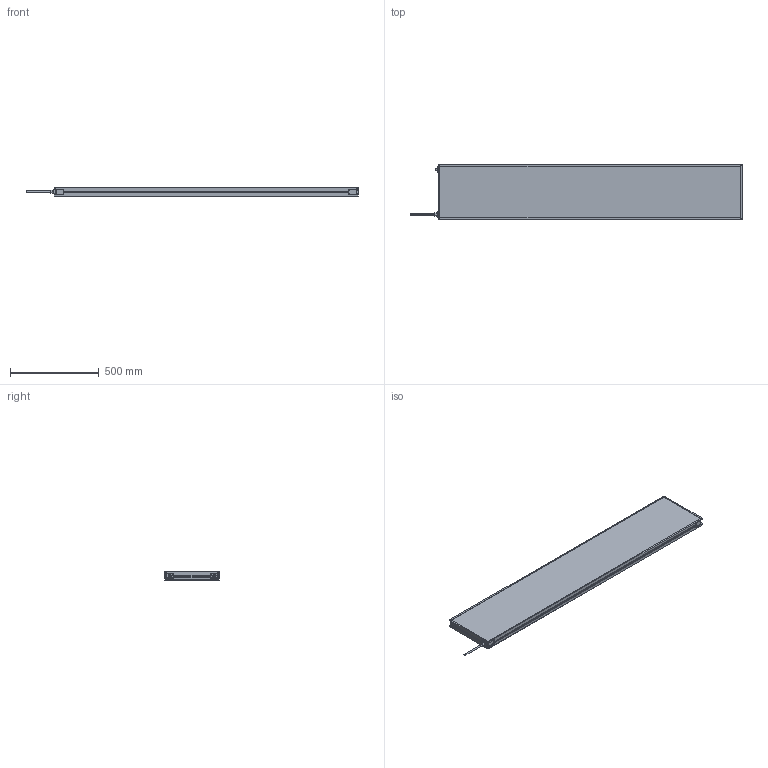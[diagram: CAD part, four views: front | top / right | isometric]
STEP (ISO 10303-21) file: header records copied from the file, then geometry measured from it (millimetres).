
FILE_DESCRIPTION (( 'STEP AP214' ), '1' );
FILE_NAME ('MBACK-xxxx-xxx-M1A2_CLIENT300x1700.STEP', '2022-04-01T11:33:05', ( '' ), ( '' ), 'SwSTEP 2.0', 'SolidWorks 2020', '' );
FILE_SCHEMA (( 'AUTOMOTIVE_DESIGN' ));
Length unit declared in the file: millimetre
Products named in the file (1): MBACK-xxxx-xxx-M1A2_CLIENT300x1700
Bounding box: 1867.4 x 308 x 45.5 mm (x, y, z)
Volume: 21872245.4 mm3; surface area: 1325929.6 mm2
Topology: 1 solids, 1 shells, 470 faces, 1210 edges, 804 vertices
Faces by surface type: plane 265, cylinder 117, bspline 80, cone 8
Entity records: 18046 total; most frequent: CARTESIAN_POINT 6837, ORIENTED_EDGE 2420, DIRECTION 2082, EDGE_CURVE 1210, VERTEX_POINT 804, LINE 800, VECTOR 800, AXIS2_PLACEMENT_3D 641
